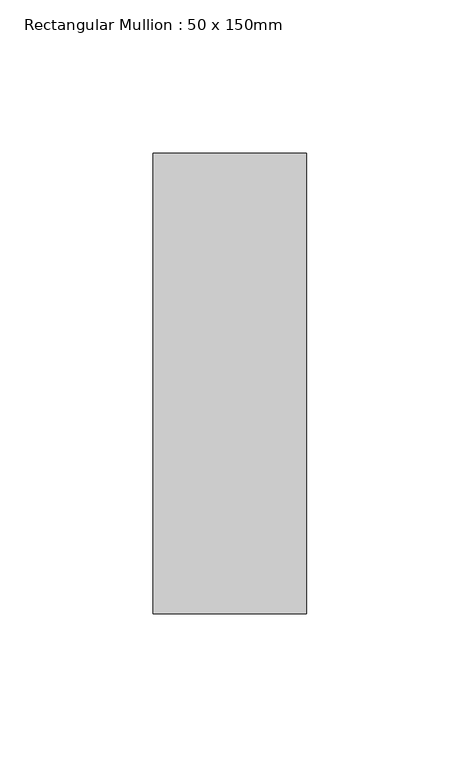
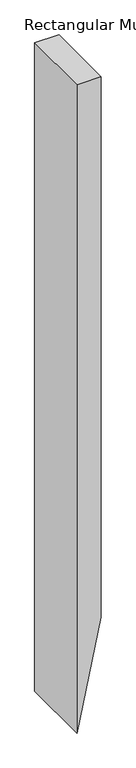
"""IFC4 building model written with IfcOpenShell, lengths in millimetres: member geometry, Rectangular Mullion : 50 x 150mm."""

import ifcopenshell
import ifcopenshell.guid

model = None  # the IFC model being written
_history = None  # IfcOwnerHistory: only IFC2X3 demands one
_inside = {}  # id of a spatial element -> (the spatial element, [elements in it])
_under = {}  # id of a project, library or spatial element -> (it, [spatial elements below it])
_declared = {}  # id of a project -> (the project, [libraries it declares])
_typed = {}  # id of a type object -> (the type object, [elements of that type])
_made_of = {}  # id of a material, layer set ... -> (it, [elements and type objects made of it])


def new_model(schema):
    """Start an empty IFC model of exactly this schema.

    Asked for "IFC4X3", IfcOpenShell would pick the latest addendum, in which some entities
    have other attributes; the version numbers below select the first issue.
    IFC2X3 requires an IfcOwnerHistory on every rooted entity: one is made here for all.
    """
    global model, _history
    if schema == "IFC4X3":
        model = ifcopenshell.file(schema_version=(4, 3, 0, 0))
    else:
        model = ifcopenshell.file(schema=schema)
    _inside.clear()
    _under.clear()
    _declared.clear()
    _typed.clear()
    _made_of.clear()
    _history = None
    if model.schema == "IFC2X3":
        org = make("IfcOrganization", Name="unknown")
        user = make(
            "IfcPersonAndOrganization",
            ThePerson=make("IfcPerson", FamilyName="unknown"),
            TheOrganization=org,
        )
        app = make(
            "IfcApplication",
            ApplicationDeveloper=org,
            Version="unknown",
            ApplicationFullName="unknown",
            ApplicationIdentifier="unknown",
        )
        _history = make(
            "IfcOwnerHistory",
            OwningUser=user,
            OwningApplication=app,
            ChangeAction="ADDED",
            CreationDate=0,
        )
    return model


def make(cls, **values):
    """One entity of the class cls with the attributes given. An attribute that is None is left unset."""
    return model.create_entity(
        cls, **{name: value for name, value in values.items() if value is not None}
    )


def rooted(cls, **values):
    """An entity with a GlobalId (a new one), such as an element, a storey or a relation."""
    return make(cls, GlobalId=ifcopenshell.guid.new(), OwnerHistory=_history, **values)


def si_unit(unit_type, name, prefix=None):
    """IfcSIUnit, for example si_unit("LENGTHUNIT", "METRE", prefix="MILLI")."""
    return make("IfcSIUnit", UnitType=unit_type, Prefix=prefix, Name=name)


def assignment(units):
    """IfcUnitAssignment: the units of a project."""
    return None if units is None else make("IfcUnitAssignment", Units=units)


def point(xyz):
    """IfcCartesianPoint."""
    return None if xyz is None else make("IfcCartesianPoint", Coordinates=xyz)


def direction(xyz):
    """IfcDirection."""
    return None if xyz is None else make("IfcDirection", DirectionRatios=xyz)


def frame(location, z_axis=None, x_axis=None):
    """IfcAxis2Placement3D, a coordinate frame: its origin and axes. An axis left out is left unset."""
    return make(
        "IfcAxis2Placement3D",
        Location=point(location),
        Axis=direction(z_axis),
        RefDirection=direction(x_axis),
    )


def origin():
    """The frame at (0, 0, 0) with its axes left unset."""
    return frame((0.0, 0.0, 0.0))


def place(relative_to, where):
    """IfcLocalPlacement: puts the frame where relative to a parent placement (None: the world)."""
    return make(
        "IfcLocalPlacement", PlacementRelTo=relative_to, RelativePlacement=where
    )


def context(
    kind, dimensions, precision=None, world=None, true_north=None, identifier=None
):
    """IfcGeometricRepresentationContext, for example the 3D "Model" context."""
    return make(
        "IfcGeometricRepresentationContext",
        ContextIdentifier=identifier,
        ContextType=kind,
        CoordinateSpaceDimension=dimensions,
        Precision=precision,
        WorldCoordinateSystem=world,
        TrueNorth=true_north,
    )


def project(units=None, contexts=None):
    """IfcProject with its units and contexts."""
    return rooted(
        "IfcProject",
        Name="project",
        RepresentationContexts=contexts,
        UnitsInContext=assignment(units),
    )


def spatial(cls, under=None, at=None, **own):
    """A site, building, storey or space (cls), placed at a placement, below another one or the project."""
    s = rooted(cls, ObjectPlacement=at, **own)
    if under is not None:
        _under.setdefault(under.id(), (under, []))[1].append(s)
    return s


def polyline(points):
    """IfcPolyline through the points."""
    return make("IfcPolyline", Points=[point(p) for p in points])


def outline(outer, holes=None, kind="AREA"):
    """IfcArbitraryClosedProfileDef: a profile drawn as a closed curve; with holes, ...WithVoids."""
    if holes is None:
        return make("IfcArbitraryClosedProfileDef", ProfileType=kind, OuterCurve=outer)
    return make(
        "IfcArbitraryProfileDefWithVoids",
        ProfileType=kind,
        OuterCurve=outer,
        InnerCurves=holes,
    )


def extrude(swept, where, along, depth):
    """IfcExtrudedAreaSolid: the profile swept, set in the frame where, extruded along a direction by depth."""
    return make(
        "IfcExtrudedAreaSolid",
        SweptArea=swept,
        Position=where,
        ExtrudedDirection=direction(along),
        Depth=depth,
    )


def shape(context_of_items, identifier, shape_type, items):
    """IfcShapeRepresentation: the items that make up one representation, for example the "Body"."""
    return make(
        "IfcShapeRepresentation",
        ContextOfItems=context_of_items,
        RepresentationIdentifier=identifier,
        RepresentationType=shape_type,
        Items=items,
    )


def source(mapping_origin, context_of_items, identifier, shape_type, items):
    """IfcRepresentationMap: a shape defined once, which mapped items show again and again."""
    return make(
        "IfcRepresentationMap",
        MappingOrigin=mapping_origin,
        MappedRepresentation=shape(context_of_items, identifier, shape_type, items),
    )


def transform(
    local_origin,
    x_axis=None,
    y_axis=None,
    z_axis=None,
    scale=None,
    scale2=None,
    scale3=None,
    uniform=True,
):
    """IfcCartesianTransformationOperator3D, or its non-uniform kind. x_axis, y_axis, z_axis: its Axis1, 2, 3."""
    if uniform:
        return make(
            "IfcCartesianTransformationOperator3D",
            Axis1=direction(x_axis),
            Axis2=direction(y_axis),
            LocalOrigin=point(local_origin),
            Scale=scale,
            Axis3=direction(z_axis),
        )
    return make(
        "IfcCartesianTransformationOperator3DnonUniform",
        Axis1=direction(x_axis),
        Axis2=direction(y_axis),
        LocalOrigin=point(local_origin),
        Scale=scale,
        Axis3=direction(z_axis),
        Scale2=scale2,
        Scale3=scale3,
    )


def mapped(mapping_source, mapping_target):
    """IfcMappedItem: shows the shape of a source again, moved by a transform."""
    return make(
        "IfcMappedItem", MappingSource=mapping_source, MappingTarget=mapping_target
    )


def made_of(thing, what):
    """Note that an element or type object is made of a material, layer set ...; save() writes the relation."""
    if what is not None:
        _made_of.setdefault(what.id(), (what, []))[1].append(thing)
    return thing


def element(
    cls,
    number,
    at=None,
    inside=None,
    cuts=None,
    type_object=None,
    material=None,
    context=None,
    identifier="Body",
    shape_type=None,
    held_by="IfcProductDefinitionShape",
    body=None,
    shapes=None,
    **own,
):
    """One element of the class cls, such as IfcWall. Its Tag is "e" and its number.

    at: its placement. inside: the storey or other place that contains it. cuts: it is an
    opening in that element (IfcRelVoidsElement). A single representation is given by context,
    identifier, shape_type and body (its items); several are given by shapes. held_by: the class
    of the entity that holds the representations. save() writes the other relations.
    """
    e = rooted(cls, Tag="e%d" % number, ObjectPlacement=at, **own)
    if body is not None:
        shapes = [shape(context, identifier, shape_type, body)]
    if shapes is not None:
        e.Representation = make(held_by, Representations=shapes)
    if inside is not None:
        _inside.setdefault(inside.id(), (inside, []))[1].append(e)
    if cuts is not None:
        rooted(
            "IfcRelVoidsElement", RelatingBuildingElement=cuts, RelatedOpeningElement=e
        )
    if type_object is not None:
        _typed.setdefault(type_object.id(), (type_object, []))[1].append(e)
    return made_of(e, material)


def aggregate(whole, parts):
    """IfcRelAggregates: a whole, such as a stair, and the parts it consists of."""
    return rooted("IfcRelAggregates", RelatingObject=whole, RelatedObjects=parts)


def save(model, path):
    """Write the relations noted so far, then the file.

    IfcRelAggregates (storeys below a building ...), IfcRelContainedInSpatialStructure (elements
    in a storey), IfcRelDefinesByType, IfcRelAssociatesMaterial and IfcRelDeclares: one each for
    every whole, place, type object, material and project.
    """
    for whole, parts in _under.values():
        aggregate(whole, parts)
    for where, things in _inside.values():
        rooted(
            "IfcRelContainedInSpatialStructure",
            RelatedElements=things,
            RelatingStructure=where,
        )
    for kind, things in _typed.values():
        rooted("IfcRelDefinesByType", RelatedObjects=things, RelatingType=kind)
    for what, things in _made_of.values():
        rooted("IfcRelAssociatesMaterial", RelatedObjects=things, RelatingMaterial=what)
    for by, libraries in _declared.values():
        rooted("IfcRelDeclares", RelatingContext=by, RelatedDefinitions=libraries)
    model.write(path)


def rectangular_mullion_50_x_150mm_f722e24b(model_context):
    return source(origin(), model_context, "Body", "SweptSolid", [
        extrude(outline(polyline([(0.0, 25.0), (0.0, -25.0), (-1406.4363577, -25.0), (-1172.6176423, 25.0), (0.0, 25.0)])), frame((0.0, -75.0, 0.0), z_axis=(0.0, 1.0, 0.0), x_axis=(0.0, 0.0, 1.0)), (0.0, 0.0, 1.0), 150.0),
    ])


if __name__ == "__main__":
    model = new_model("IFC4")
    model_context = context("Model", 3, world=origin())
    ifc_project = project(units=[si_unit("LENGTHUNIT", "METRE", prefix="MILLI")], contexts=[model_context])
    site = spatial("IfcSite", under=ifc_project)
    building = spatial("IfcBuilding", under=site)
    placement = place(None, origin())
    rectangular_mullion_50_x_150mm_shape = rectangular_mullion_50_x_150mm_f722e24b(model_context)
    element("IfcMember", 1, ObjectType="Rectangular Mullion : 50 x 150mm", at=placement, inside=building, context=model_context, shape_type="MappedRepresentation", body=[
        mapped(rectangular_mullion_50_x_150mm_shape, transform((0.0, 0.0, 0.0), x_axis=(1.0, 0.0, 0.0), y_axis=(0.0, 1.0, 0.0), z_axis=(0.0, 0.0, 1.0))),
    ])
    save(model, "model.ifc")
